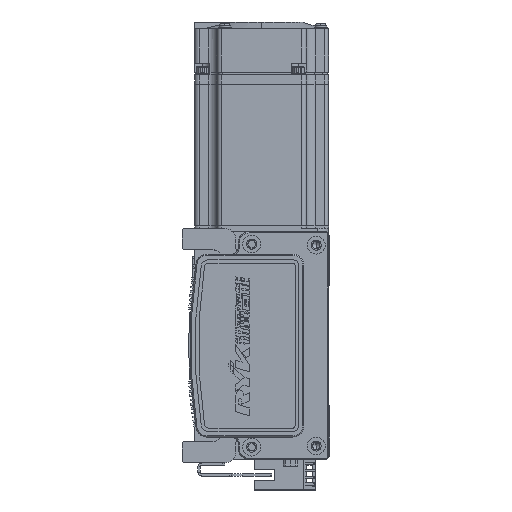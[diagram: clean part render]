
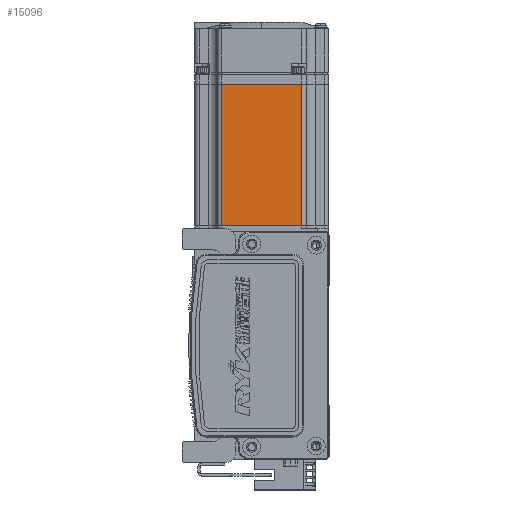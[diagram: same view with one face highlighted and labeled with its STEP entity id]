
A CAD part, left-side view. The second image highlights one B-rep face of the part: STEP entity #15096.
In plain terms, the highlighted planar face has unit normal (-1, 0, 0) as drawn and (0, 0, -1) by its records, which use the part's own axes.
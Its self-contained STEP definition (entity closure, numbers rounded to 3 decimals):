
#4681 = ORIENTED_EDGE ( 'NONE', *, *, #54242, .T. ) ;
#4851 = PLANE ( 'NONE',  #18193 ) ;
#9840 = DIRECTION ( 'NONE',  ( 0., 0., -1. ) ) ;
#10590 = FACE_OUTER_BOUND ( 'NONE', #60509, .T. ) ;
#11390 = DIRECTION ( 'NONE',  ( 0., 1., 0. ) ) ;
#12518 = CARTESIAN_POINT ( 'NONE',  ( -70.95, -18., -30. ) ) ;
#13618 = CARTESIAN_POINT ( 'NONE',  ( -7.75, -18., -30. ) ) ;
#15096 = ADVANCED_FACE ( 'NONE', ( #10590 ), #4851, .T. ) ;
#15697 = CARTESIAN_POINT ( 'NONE',  ( -6.5, 25., -30. ) ) ;
#18110 = CARTESIAN_POINT ( 'NONE',  ( -7.75, 25., -30. ) ) ;
#18193 = AXIS2_PLACEMENT_3D ( 'NONE', #15697, #9840, #62330 ) ;
#18768 = EDGE_CURVE ( 'NONE', #38422, #66096, #27500, .T. ) ;
#21367 = VECTOR ( 'NONE', #11390, 1000. ) ;
#23688 = DIRECTION ( 'NONE',  ( -1., 0., 0. ) ) ;
#23863 = VECTOR ( 'NONE', #49926, 1000. ) ;
#25652 = VERTEX_POINT ( 'NONE', #31514 ) ;
#27500 = LINE ( 'NONE', #18110, #61565 ) ;
#31514 = CARTESIAN_POINT ( 'NONE',  ( -70.95, 18., -30. ) ) ;
#31917 = CARTESIAN_POINT ( 'NONE',  ( -7.75, 18., -30. ) ) ;
#31993 = CARTESIAN_POINT ( 'NONE',  ( -70.95, 25., -30. ) ) ;
#34775 = CARTESIAN_POINT ( 'NONE',  ( -6.5, 18., -30. ) ) ;
#34905 = VECTOR ( 'NONE', #23688, 1000. ) ;
#35153 = LINE ( 'NONE', #31993, #21367 ) ;
#36061 = LINE ( 'NONE', #34775, #23863 ) ;
#37317 = ORIENTED_EDGE ( 'NONE', *, *, #18768, .T. ) ;
#38422 = VERTEX_POINT ( 'NONE', #31917 ) ;
#38773 = DIRECTION ( 'NONE',  ( 0., -1., 0. ) ) ;
#39793 = CARTESIAN_POINT ( 'NONE',  ( -6.5, -18., -30. ) ) ;
#42137 = ORIENTED_EDGE ( 'NONE', *, *, #65346, .T. ) ;
#43488 = EDGE_CURVE ( 'NONE', #60366, #25652, #35153, .T. ) ;
#45449 = ORIENTED_EDGE ( 'NONE', *, *, #43488, .T. ) ;
#48629 = LINE ( 'NONE', #39793, #34905 ) ;
#49926 = DIRECTION ( 'NONE',  ( 1., 0., 0. ) ) ;
#54242 = EDGE_CURVE ( 'NONE', #25652, #38422, #36061, .T. ) ;
#60366 = VERTEX_POINT ( 'NONE', #12518 ) ;
#60509 = EDGE_LOOP ( 'NONE', ( #37317, #42137, #45449, #4681 ) ) ;
#61565 = VECTOR ( 'NONE', #38773, 1000. ) ;
#62330 = DIRECTION ( 'NONE',  ( -1., 0., 0. ) ) ;
#65346 = EDGE_CURVE ( 'NONE', #66096, #60366, #48629, .T. ) ;
#66096 = VERTEX_POINT ( 'NONE', #13618 ) ;
